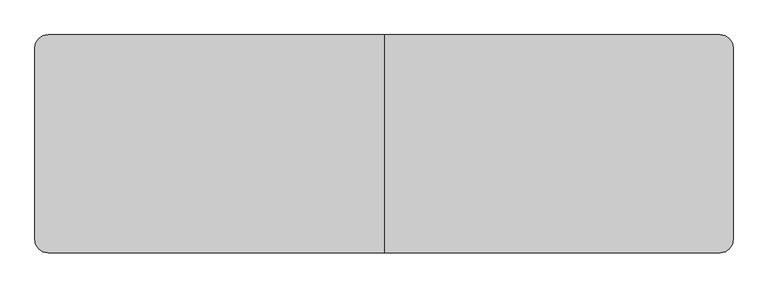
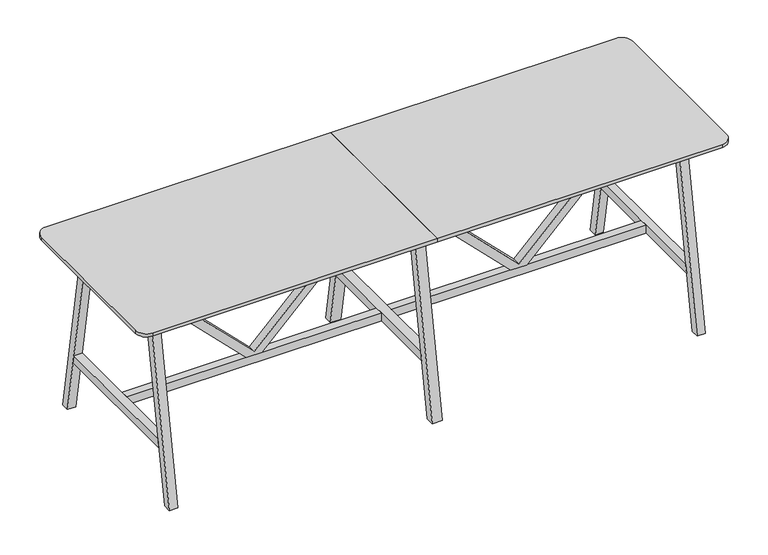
"""IFC4 building model written with IfcOpenShell, lengths in millimetres: furniture geometry, BDG_BossDesign_Tbls_AgentTables6Legs : AGE-HT-6L-3200-1000-3D."""

from ifc_helpers import new_model, si_unit, point, frame, frame_2d, origin, place, context, project, spatial, polyline, circle_curve, trimmed, segment, composite_curve, outline, extrude, source, transform, mapped, element, save


def furniture_340da50a(model_context):
    return source(origin(), model_context, "Body", "SweptSolid", [
        extrude(outline(polyline([(345.0, 674.0823957), (345.0, 758.4176043), (992.0, 1405.0), (1032.0, 1405.0), (1032.0, 1385.0), (365.0, 716.25), (1032.0, 47.5), (1032.0, 27.5), (992.0, 27.5), (345.0, 674.0823957)])), frame((0.0, -22.5000305, 0.0), z_axis=(0.0, 1.0, 0.0), x_axis=(0.0, 0.0, 1.0)), (0.0, 0.0, 1.0), 45.000061),
        extrude(outline(polyline([(345.0, -674.0823957), (992.0, -27.5), (1032.0, -27.5), (1032.0, -47.5), (365.0, -716.25), (1032.0, -1385.0), (1032.0, -1405.0), (992.0, -1405.0), (345.0, -758.4176043), (345.0, -674.0823957)])), frame((0.0, -22.5000305, 0.0), z_axis=(0.0, 1.0, 0.0), x_axis=(0.0, 0.0, 1.0)), (0.0, 0.0, 1.0), 45.000061),
        extrude(outline(polyline([(500.0, 0.0), (454.9999949, 0.0), (285.5, 970.0), (330.5000051, 970.0), (500.0, 0.0)])), frame((-27.5, 0.0, 0.0), z_axis=(1.0, 0.0, 0.0), x_axis=(0.0, 1.0, 0.0)), (0.0, 0.0, 1.0), 55.0),
        extrude(outline(polyline([(-500.0, 0.0), (-330.5000051, 970.0), (-285.5, 970.0), (-454.9999949, 0.0), (-500.0, 0.0)])), frame((-27.5, 0.0, 0.0), z_axis=(1.0, 0.0, 0.0), x_axis=(0.0, 1.0, 0.0)), (0.0, 0.0, 1.0), 55.0),
        extrude(outline(polyline([(402.5773161, 300.0), (-402.5773161, 300.0), (-394.7139143, 345.0), (394.7139143, 345.0), (402.5773161, 300.0)])), frame((-27.5, 0.0, 0.0), z_axis=(1.0, 0.0, 0.0), x_axis=(0.0, 1.0, 0.0)), (0.0, 0.0, 1.0), 55.0),
        extrude(outline(composite_curve([segment(polyline([(0.0, 500.0), (0.0, -500.0), (-1540.0, -500.0)]), True, "CONTINUOUS"), segment(trimmed(circle_curve(frame_2d((-1540.0, -440.0)), 60.0), [point((-1540.0, -500.0))], [point((-1600.0, -440.0))], False, "CARTESIAN"), True, "CONTINUOUS"), segment(polyline([(-1600.0, -440.0), (-1600.0, 440.0)]), True, "CONTINUOUS"), segment(trimmed(circle_curve(frame_2d((-1540.0, 440.0)), 60.0), [point((-1600.0, 440.0))], [point((-1540.0, 500.0))], False, "CARTESIAN"), True, "CONTINUOUS"), segment(polyline([(-1540.0, 500.0), (0.0, 500.0)]), True, "CONTINUOUS")], self_intersect=False)), frame((0.0, 0.0, 1032.0), z_axis=(0.0, 0.0, 1.0), x_axis=(1.0, 0.0, 0.0)), (0.0, 0.0, 1.0), 18.0),
        extrude(outline(polyline([(-394.7139143, 345.0), (394.7139143, 345.0), (402.5773161, 300.0), (-402.5773161, 300.0), (-394.7139143, 345.0)])), frame((1405.0, 0.0, 0.0), z_axis=(1.0, 0.0, 0.0), x_axis=(0.0, 1.0, 0.0)), (0.0, 0.0, 1.0), 45.0),
        extrude(outline(polyline([(500.0, 0.0), (454.9999949, 0.0), (285.5, 970.0), (330.5000051, 970.0), (500.0, 0.0)])), frame((-1450.0, 0.0, 0.0), z_axis=(1.0, 0.0, 0.0), x_axis=(0.0, 1.0, 0.0)), (0.0, 0.0, 1.0), 45.0),
        extrude(outline(polyline([(-500.0, 0.0), (-330.5000051, 970.0), (-285.5, 970.0), (-454.9999949, 0.0), (-500.0, 0.0)])), frame((-1450.0, 0.0, 0.0), z_axis=(1.0, 0.0, 0.0), x_axis=(0.0, 1.0, 0.0)), (0.0, 0.0, 1.0), 45.0),
        extrude(outline(polyline([(-394.7139143, 345.0), (394.7139143, 345.0), (402.5773161, 300.0), (-402.5773161, 300.0), (-394.7139143, 345.0)])), frame((-1450.0, 0.0, 0.0), z_axis=(1.0, 0.0, 0.0), x_axis=(0.0, 1.0, 0.0)), (0.0, 0.0, 1.0), 45.0),
        extrude(outline(polyline([(-326.6006165, 944.973938), (-304.2770691, 1032.0), (-279.5, 1032.0), (-301.8235474, 944.973938), (-326.6006165, 944.973938)])), frame((-1405.0, 0.0, 0.0), z_axis=(1.0, 0.0, 0.0), x_axis=(0.0, 1.0, 0.0)), (0.0, 0.0, 1.0), 2810.0),
        extrude(outline(polyline([(326.6006165, 944.973938), (301.8235474, 944.973938), (279.5, 1032.0), (304.2770691, 1032.0), (326.6006165, 944.973938)])), frame((-1405.0, 0.0, 0.0), z_axis=(1.0, 0.0, 0.0), x_axis=(0.0, 1.0, 0.0)), (0.0, 0.0, 1.0), 2810.0),
        extrude(outline(polyline([(499.7999878, 0.0), (454.7999827, 0.0), (285.5, 970.0), (330.5000051, 970.0), (499.7999878, 0.0)])), frame((1405.0, 0.0, 0.0), z_axis=(1.0, 0.0, 0.0), x_axis=(0.0, 1.0, 0.0)), (0.0, 0.0, 1.0), 45.0),
        extrude(outline(polyline([(-499.7999878, 0.0), (-330.5000051, 970.0), (-285.5, 970.0), (-454.7999827, 0.0), (-499.7999878, 0.0)])), frame((1405.0, 0.0, 0.0), z_axis=(1.0, 0.0, 0.0), x_axis=(0.0, 1.0, 0.0)), (0.0, 0.0, 1.0), 45.0),
        extrude(outline(polyline([(-27.5, 22.5000305), (-27.5, -22.5000305), (-1405.0, -22.5000305), (-1405.0, 22.5000305), (-27.5, 22.5000305)])), frame((0.0, 0.0, 300.0), z_axis=(0.0, 0.0, 1.0), x_axis=(1.0, 0.0, 0.0)), (0.0, 0.0, 1.0), 45.0),
        extrude(outline(polyline([(27.5, -22.5000305), (27.5, 22.5000305), (1405.0, 22.5000305), (1405.0, -22.5000305), (27.5, -22.5000305)])), frame((0.0, 0.0, 300.0), z_axis=(0.0, 0.0, 1.0), x_axis=(1.0, 0.0, 0.0)), (0.0, 0.0, 1.0), 45.0),
        extrude(outline(composite_curve([segment(trimmed(circle_curve(frame_2d((1540.0, 440.0)), 60.0), [point((1540.0, 500.0))], [point((1600.0, 440.0))], False, "CARTESIAN"), True, "CONTINUOUS"), segment(polyline([(1600.0, 440.0), (1600.0, -440.0)]), True, "CONTINUOUS"), segment(trimmed(circle_curve(frame_2d((1540.0, -440.0)), 60.0), [point((1600.0, -440.0))], [point((1540.0, -500.0))], False, "CARTESIAN"), True, "CONTINUOUS"), segment(polyline([(1540.0, -500.0), (0.0, -500.0), (0.0, 500.0), (1540.0, 500.0)]), True, "CONTINUOUS")], self_intersect=False)), frame((0.0, 0.0, 1032.0), z_axis=(0.0, 0.0, 1.0), x_axis=(1.0, 0.0, 0.0)), (0.0, 0.0, 1.0), 18.0),
    ])


if __name__ == "__main__":
    model = new_model("IFC4")
    model_context = context("Model", 3, world=origin())
    ifc_project = project(units=[si_unit("LENGTHUNIT", "METRE", prefix="MILLI")], contexts=[model_context])
    site = spatial("IfcSite", under=ifc_project)
    building = spatial("IfcBuilding", under=site)
    placement = place(None, origin())
    furniture_shape = furniture_340da50a(model_context)
    element("IfcFurniture", 1, ObjectType="BDG_BossDesign_Tbls_AgentTables6Legs : AGE-HT-6L-3200-1000-3D", at=placement, inside=building, context=model_context, shape_type="MappedRepresentation", body=[
        mapped(furniture_shape, transform((0.0, 0.0, 0.0), x_axis=(1.0, 0.0, 0.0), y_axis=(0.0, 1.0, 0.0), z_axis=(0.0, 0.0, 1.0))),
    ])
    save(model, "model.ifc")
